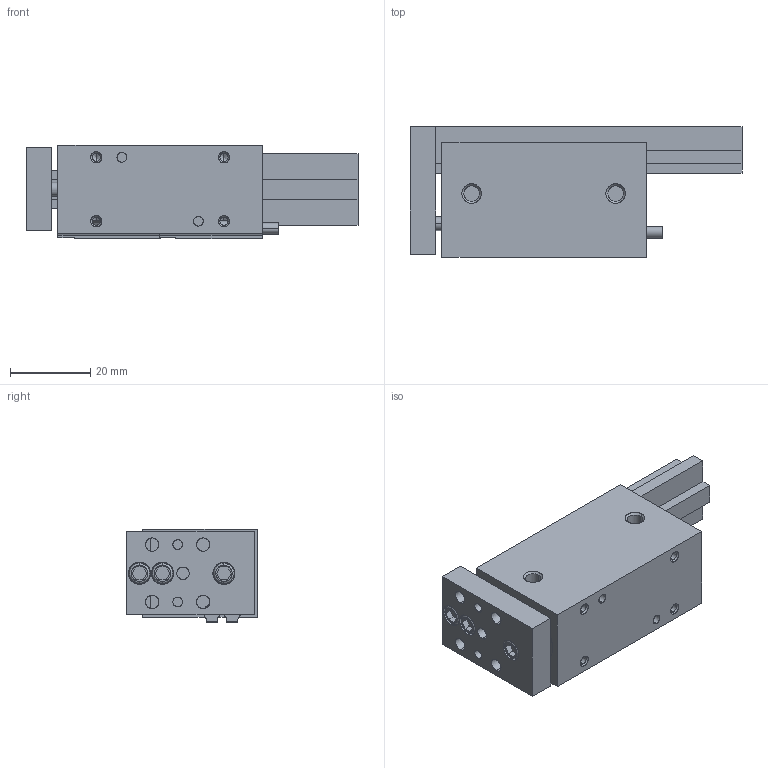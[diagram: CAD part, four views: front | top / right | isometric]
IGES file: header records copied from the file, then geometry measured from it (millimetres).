
Start section: SolidWorks IGES file using analytic representation for surfaces
Global section: file name: C:\Users\jmkuhnes\Pictures\My Transfers\AGMS\AGMS-1-2\AGMS-1-2 RETRACTED in MM.IGS; native system: SolidWorks 2013; preprocessor: SolidWorks 2013; author: jmkuhnes; date: 141106.090428; units: millimetre
Bounding box: 82.55 x 32.51 x 23.2 mm (x, y, z)
Surface area: 18497 mm2 (no closed solid volume)
Topology: 0 solids, 0 shells, 293 faces, 4306 edges, 4294 vertices
Faces by surface type: revolution 158, bspline 135
